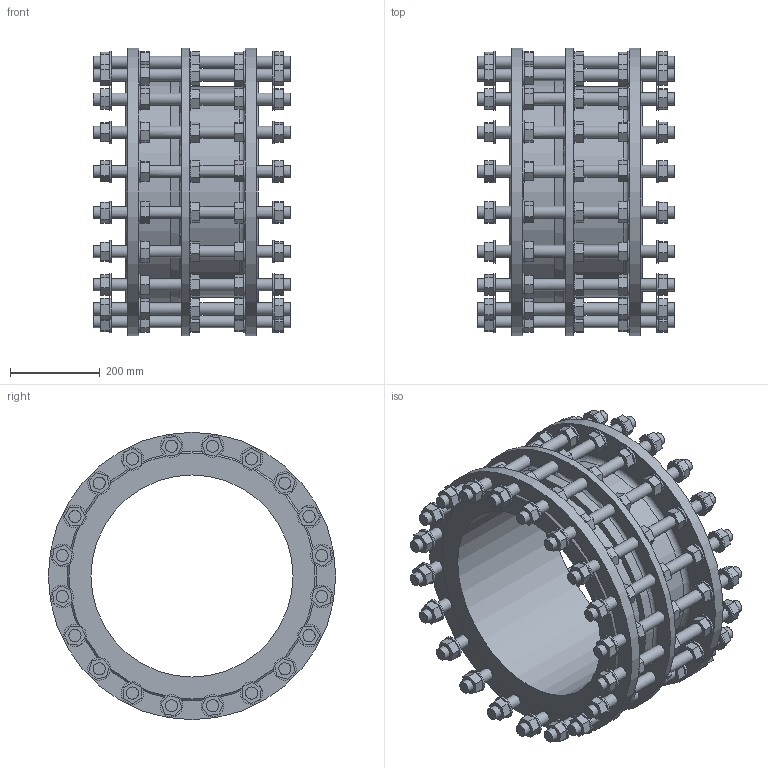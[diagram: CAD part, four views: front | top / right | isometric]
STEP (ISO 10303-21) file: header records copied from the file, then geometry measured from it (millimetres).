
FILE_DESCRIPTION (( 'STEP AP203' ), '1' );
FILE_NAME ('O_265_910_DN450_1XXXXX00_L=295_REV01.step', '2024-10-11T10:38:50', ( '' ), ( '' ), 'SwSTEP 2.0', 'SolidWorks 2022', '' );
FILE_SCHEMA (( 'CONFIG_CONTROL_DESIGN' ));
Length unit declared in the file: millimetre
Products named in the file (1): O_265_910_DN450_1XXXXX00_L=295_REV01
Bounding box: 440 x 640 x 640 mm (x, y, z)
Volume: 24152601.7 mm3; surface area: 2589614.3 mm2
Topology: 1 solids, 1 shells, 1161 faces, 2783 edges, 1895 vertices
Faces by surface type: plane 928, cylinder 228, cone 3, torus 2
Full cylindrical faces by diameter (mm): 27 x120, 50 x100, 450 x1, 468 x1, 502 x1, 640 x3
Entity records: 31652 total; most frequent: CARTESIAN_POINT 5617, DIRECTION 5197, ORIENTED_EDGE 4820, EDGE_CURVE 2410, LINE 1907, VECTOR 1907, VERTEX_POINT 1753, EDGE_LOOP 1745
